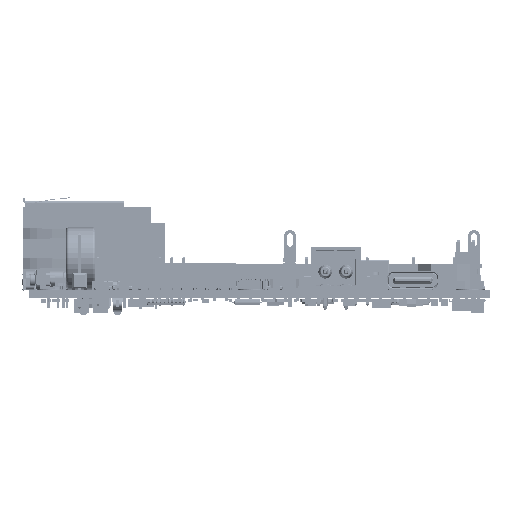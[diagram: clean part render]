
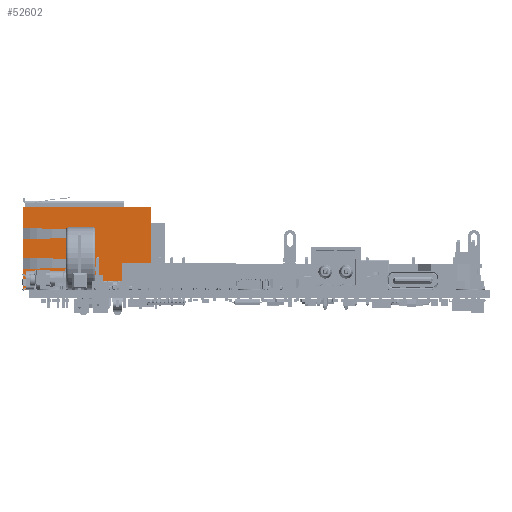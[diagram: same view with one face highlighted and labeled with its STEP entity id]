
A CAD part, left-side view. The second image highlights one B-rep face of the part: STEP entity #52602.
In plain terms, the highlighted planar face has unit normal (-1, 0, 0) as drawn and (1, 0, 0) by its records, which use the part's own axes.
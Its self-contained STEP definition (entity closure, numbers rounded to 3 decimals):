
#52602=ADVANCED_FACE('NONE',(#127202),#127203,.F.);
#127202=FACE_OUTER_BOUND('',#225793,.T.);
#127203=PLANE('',#225794);
#225793=EDGE_LOOP('',(#344944,#344945,#344946,#344947));
#225794=AXIS2_PLACEMENT_3D('',#344948,#344949,#344950);
#344944=ORIENTED_EDGE('',*,*,#545195,.T.);
#344945=ORIENTED_EDGE('',*,*,#545196,.F.);
#344946=ORIENTED_EDGE('',*,*,#545171,.F.);
#344947=ORIENTED_EDGE('',*,*,#545193,.T.);
#344948=CARTESIAN_POINT('',(16.26,0.0,21.59));
#344949=DIRECTION('',(-1.0,0.0,0.0));
#344950=DIRECTION('',(0.0,0.0,1.0));
#545171=EDGE_CURVE('NONE',#614699,#614701,#614702,.T.);
#545193=EDGE_CURVE('NONE',#614699,#614737,#614739,.T.);
#545195=EDGE_CURVE('NONE',#614737,#614741,#614742,.T.);
#545196=EDGE_CURVE('NONE',#614701,#614741,#614743,.T.);
#614699=VERTEX_POINT('NONE',#715666);
#614701=VERTEX_POINT('NONE',#715669);
#614702=LINE('',#715670,#715671);
#614737=VERTEX_POINT('NONE',#715723);
#614739=LINE('',#715726,#715727);
#614741=VERTEX_POINT('NONE',#715729);
#614742=LINE('',#715730,#715731);
#614743=LINE('',#715732,#715733);
#715666=CARTESIAN_POINT('',(16.26,0.0,21.59));
#715669=CARTESIAN_POINT('',(16.26,13.84,21.59));
#715670=CARTESIAN_POINT('',(16.26,0.0,21.59));
#715671=VECTOR('',#851001,1000.0);
#715723=CARTESIAN_POINT('',(16.26,0.0,0.0));
#715726=CARTESIAN_POINT('',(16.26,0.0,21.59));
#715727=VECTOR('',#851020,1000.0);
#715729=CARTESIAN_POINT('',(16.26,13.84,0.0));
#715730=CARTESIAN_POINT('',(16.26,0.0,0.0));
#715731=VECTOR('',#851021,1000.0);
#715732=CARTESIAN_POINT('',(16.26,13.84,21.59));
#715733=VECTOR('',#851022,1000.0);
#851001=DIRECTION('',(0.0,1.0,0.0));
#851020=DIRECTION('',(-0.0,-0.0,-1.0));
#851021=DIRECTION('',(0.0,1.0,0.0));
#851022=DIRECTION('',(-0.0,-0.0,-1.0));
